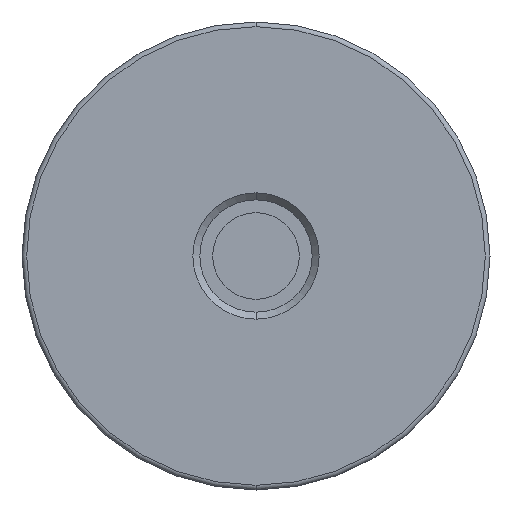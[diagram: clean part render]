
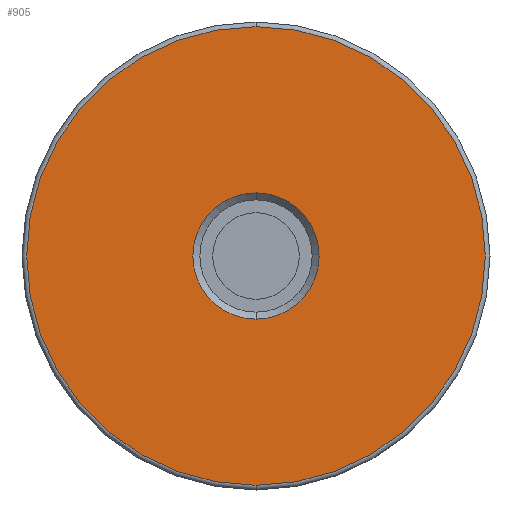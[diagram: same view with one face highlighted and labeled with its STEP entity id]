
A CAD part, front view. The second image highlights one B-rep face of the part: STEP entity #905.
In plain terms, the highlighted planar face has unit normal (0, -1, 0).
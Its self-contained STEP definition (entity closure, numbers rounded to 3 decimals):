
#25 = CARTESIAN_POINT ( 'NONE',  ( 0., 0., -13.5 ) ) ;
#197 = CIRCLE ( 'NONE', #1815, 13.5 ) ;
#492 = AXIS2_PLACEMENT_3D ( 'NONE', #850, #4735, #5525 ) ;
#665 = EDGE_LOOP ( 'NONE', ( #2334, #2850 ) ) ;
#743 = CARTESIAN_POINT ( 'NONE',  ( 0., 0., 0. ) ) ;
#850 = CARTESIAN_POINT ( 'NONE',  ( 0., 0., 0. ) ) ;
#905 = ADVANCED_FACE ( 'NONE', ( #1624, #5066 ), #1592, .F. ) ;
#961 = ORIENTED_EDGE ( 'NONE', *, *, #3684, .T. ) ;
#1002 = AXIS2_PLACEMENT_3D ( 'NONE', #4669, #1173, #2673 ) ;
#1173 = DIRECTION ( 'NONE',  ( 0., 1., 0. ) ) ;
#1186 = CIRCLE ( 'NONE', #2378, 49. ) ;
#1592 = PLANE ( 'NONE',  #1002 ) ;
#1624 = FACE_OUTER_BOUND ( 'NONE', #665, .T. ) ;
#1656 = VERTEX_POINT ( 'NONE', #4740 ) ;
#1815 = AXIS2_PLACEMENT_3D ( 'NONE', #743, #5921, #4922 ) ;
#1974 = CARTESIAN_POINT ( 'NONE',  ( 0., 0., 0. ) ) ;
#2331 = CIRCLE ( 'NONE', #492, 49. ) ;
#2334 = ORIENTED_EDGE ( 'NONE', *, *, #2403, .T. ) ;
#2378 = AXIS2_PLACEMENT_3D ( 'NONE', #1974, #6032, #4499 ) ;
#2400 = AXIS2_PLACEMENT_3D ( 'NONE', #3610, #4519, #6506 ) ;
#2403 = EDGE_CURVE ( 'NONE', #5677, #2676, #1186, .T. ) ;
#2673 = DIRECTION ( 'NONE',  ( 1., 0., 0. ) ) ;
#2676 = VERTEX_POINT ( 'NONE', #3992 ) ;
#2686 = ORIENTED_EDGE ( 'NONE', *, *, #5426, .T. ) ;
#2850 = ORIENTED_EDGE ( 'NONE', *, *, #2996, .T. ) ;
#2996 = EDGE_CURVE ( 'NONE', #2676, #5677, #2331, .T. ) ;
#3610 = CARTESIAN_POINT ( 'NONE',  ( 0., 0., 0. ) ) ;
#3684 = EDGE_CURVE ( 'NONE', #6235, #1656, #197, .T. ) ;
#3992 = CARTESIAN_POINT ( 'NONE',  ( 0., 0., 49. ) ) ;
#4100 = EDGE_LOOP ( 'NONE', ( #961, #2686 ) ) ;
#4138 = CARTESIAN_POINT ( 'NONE',  ( 0., 0., -49. ) ) ;
#4172 = CIRCLE ( 'NONE', #2400, 13.5 ) ;
#4499 = DIRECTION ( 'NONE',  ( 0., 0., -1. ) ) ;
#4519 = DIRECTION ( 'NONE',  ( 0., 1., 0. ) ) ;
#4669 = CARTESIAN_POINT ( 'NONE',  ( 0., 0., 0. ) ) ;
#4735 = DIRECTION ( 'NONE',  ( 0., -1., 0. ) ) ;
#4740 = CARTESIAN_POINT ( 'NONE',  ( 0., 0., 13.5 ) ) ;
#4922 = DIRECTION ( 'NONE',  ( 0., 0., 1. ) ) ;
#5066 = FACE_BOUND ( 'NONE', #4100, .T. ) ;
#5426 = EDGE_CURVE ( 'NONE', #1656, #6235, #4172, .T. ) ;
#5525 = DIRECTION ( 'NONE',  ( 0., 0., -1. ) ) ;
#5677 = VERTEX_POINT ( 'NONE', #4138 ) ;
#5921 = DIRECTION ( 'NONE',  ( 0., 1., 0. ) ) ;
#6032 = DIRECTION ( 'NONE',  ( 0., -1., 0. ) ) ;
#6235 = VERTEX_POINT ( 'NONE', #25 ) ;
#6506 = DIRECTION ( 'NONE',  ( 0., 0., 1. ) ) ;
